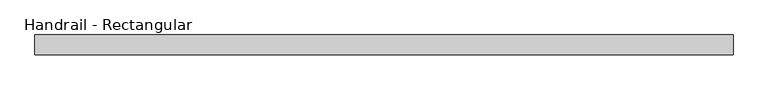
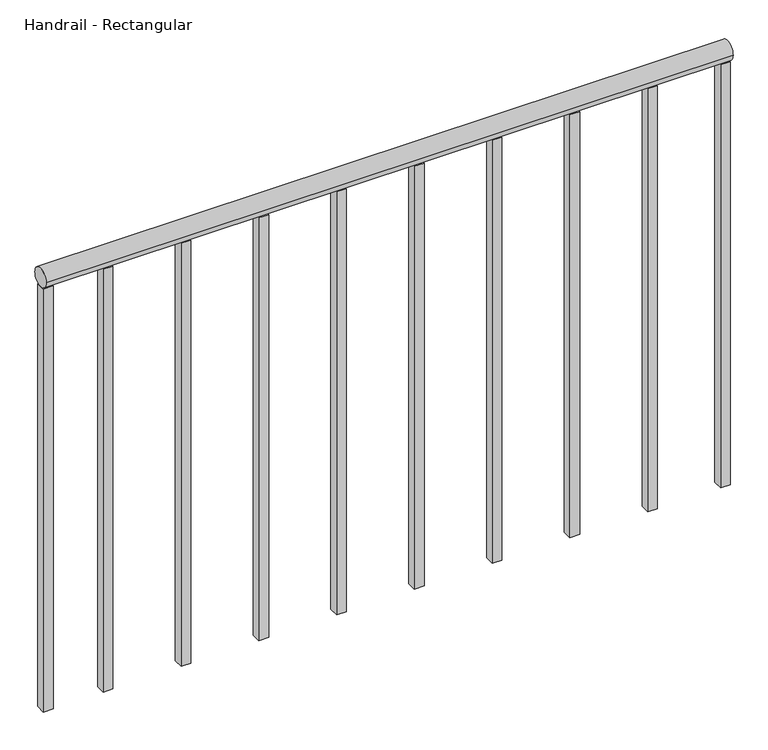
"""IFC4 building model written with IfcOpenShell, lengths in millimetres: railing geometry, Handrail - Rectangular."""

from ifc_helpers import new_model, si_unit, point, frame, frame_2d, origin, place, context, project, spatial, polyline, circle_curve, trimmed, segment, composite_curve, outline, extrude, source, transform, mapped, element, save


def handrail_rectangular_69b34157(model_context):
    return source(origin(), model_context, "Body", "SweptSolid", [
        extrude(outline(composite_curve([segment(trimmed(circle_curve(frame_2d((-35553.1683133, 3943.35)), 19.05), [point((-35572.2183133, 3943.35))], [point((-35534.1183133, 3943.35))], False, "CARTESIAN"), True, "CONTINUOUS"), segment(trimmed(circle_curve(frame_2d((-35553.1683133, 3943.35)), 19.05), [point((-35534.1183133, 3943.35))], [point((-35572.2183133, 3943.35))], False, "CARTESIAN"), True, "CONTINUOUS")], self_intersect=False)), frame((-25550.7839563, 0.0, 0.0), z_axis=(1.0, 0.0, 0.0), x_axis=(0.0, 1.0, 0.0)), (0.0, 0.0, 1.0), 1346.2),
        extrude(outline(polyline([(-25414.2589563, -35543.6433133), (-25414.2589563, -35562.6933133), (-25433.3089563, -35562.6933133), (-25433.3089563, -35543.6433133), (-25414.2589563, -35543.6433133)])), frame((0.0, 0.0, 3048.0), z_axis=(0.0, 0.0, 1.0), x_axis=(1.0, 0.0, 0.0)), (0.0, 0.0, 1.0), 876.3),
        extrude(outline(polyline([(-25261.8589563, -35543.6433133), (-25261.8589563, -35562.6933133), (-25280.9089563, -35562.6933133), (-25280.9089563, -35543.6433133), (-25261.8589563, -35543.6433133)])), frame((0.0, 0.0, 3048.0), z_axis=(0.0, 0.0, 1.0), x_axis=(1.0, 0.0, 0.0)), (0.0, 0.0, 1.0), 876.3),
        extrude(outline(polyline([(-25109.4589563, -35543.6433133), (-25109.4589563, -35562.6933133), (-25128.5089563, -35562.6933133), (-25128.5089563, -35543.6433133), (-25109.4589563, -35543.6433133)])), frame((0.0, 0.0, 3048.0), z_axis=(0.0, 0.0, 1.0), x_axis=(1.0, 0.0, 0.0)), (0.0, 0.0, 1.0), 876.3),
        extrude(outline(polyline([(-24957.0589563, -35543.6433133), (-24957.0589563, -35562.6933133), (-24976.1089563, -35562.6933133), (-24976.1089563, -35543.6433133), (-24957.0589563, -35543.6433133)])), frame((0.0, 0.0, 3048.0), z_axis=(0.0, 0.0, 1.0), x_axis=(1.0, 0.0, 0.0)), (0.0, 0.0, 1.0), 876.3),
        extrude(outline(polyline([(-24804.6589563, -35543.6433133), (-24804.6589563, -35562.6933133), (-24823.7089563, -35562.6933133), (-24823.7089563, -35543.6433133), (-24804.6589563, -35543.6433133)])), frame((0.0, 0.0, 3048.0), z_axis=(0.0, 0.0, 1.0), x_axis=(1.0, 0.0, 0.0)), (0.0, 0.0, 1.0), 876.3),
        extrude(outline(polyline([(-24652.2589563, -35543.6433133), (-24652.2589563, -35562.6933133), (-24671.3089563, -35562.6933133), (-24671.3089563, -35543.6433133), (-24652.2589563, -35543.6433133)])), frame((0.0, 0.0, 3048.0), z_axis=(0.0, 0.0, 1.0), x_axis=(1.0, 0.0, 0.0)), (0.0, 0.0, 1.0), 876.3),
        extrude(outline(polyline([(-24499.8589563, -35543.6433133), (-24499.8589563, -35562.6933133), (-24518.9089563, -35562.6933133), (-24518.9089563, -35543.6433133), (-24499.8589563, -35543.6433133)])), frame((0.0, 0.0, 3048.0), z_axis=(0.0, 0.0, 1.0), x_axis=(1.0, 0.0, 0.0)), (0.0, 0.0, 1.0), 876.3),
        extrude(outline(polyline([(-24347.4589563, -35543.6433133), (-24347.4589563, -35562.6933133), (-24366.5089563, -35562.6933133), (-24366.5089563, -35543.6433133), (-24347.4589563, -35543.6433133)])), frame((0.0, 0.0, 3048.0), z_axis=(0.0, 0.0, 1.0), x_axis=(1.0, 0.0, 0.0)), (0.0, 0.0, 1.0), 876.3),
        extrude(outline(polyline([(-25531.7339563, -35543.6433133), (-25531.7339563, -35562.6933133), (-25550.7839563, -35562.6933133), (-25550.7839563, -35543.6433133), (-25531.7339563, -35543.6433133)])), frame((0.0, 0.0, 3048.0), z_axis=(0.0, 0.0, 1.0), x_axis=(1.0, 0.0, 0.0)), (0.0, 0.0, 1.0), 876.3),
        extrude(outline(polyline([(-24204.5839563, -35543.6433133), (-24204.5839563, -35562.6933133), (-24223.6339563, -35562.6933133), (-24223.6339563, -35543.6433133), (-24204.5839563, -35543.6433133)])), frame((0.0, 0.0, 3048.0), z_axis=(0.0, 0.0, 1.0), x_axis=(1.0, 0.0, 0.0)), (0.0, 0.0, 1.0), 876.3),
    ])


if __name__ == "__main__":
    model = new_model("IFC4")
    model_context = context("Model", 3, world=origin())
    ifc_project = project(units=[si_unit("LENGTHUNIT", "METRE", prefix="MILLI")], contexts=[model_context])
    site = spatial("IfcSite", under=ifc_project)
    building = spatial("IfcBuilding", under=site)
    placement = place(None, origin())
    handrail_rectangular_shape = handrail_rectangular_69b34157(model_context)
    element("IfcRailing", 1, ObjectType="Handrail - Rectangular", at=placement, inside=building, context=model_context, shape_type="MappedRepresentation", body=[
        mapped(handrail_rectangular_shape, transform((0.0, 0.0, 0.0), x_axis=(1.0, 0.0, 0.0), y_axis=(0.0, 1.0, 0.0), z_axis=(0.0, 0.0, 1.0))),
    ])
    save(model, "model.ifc")
